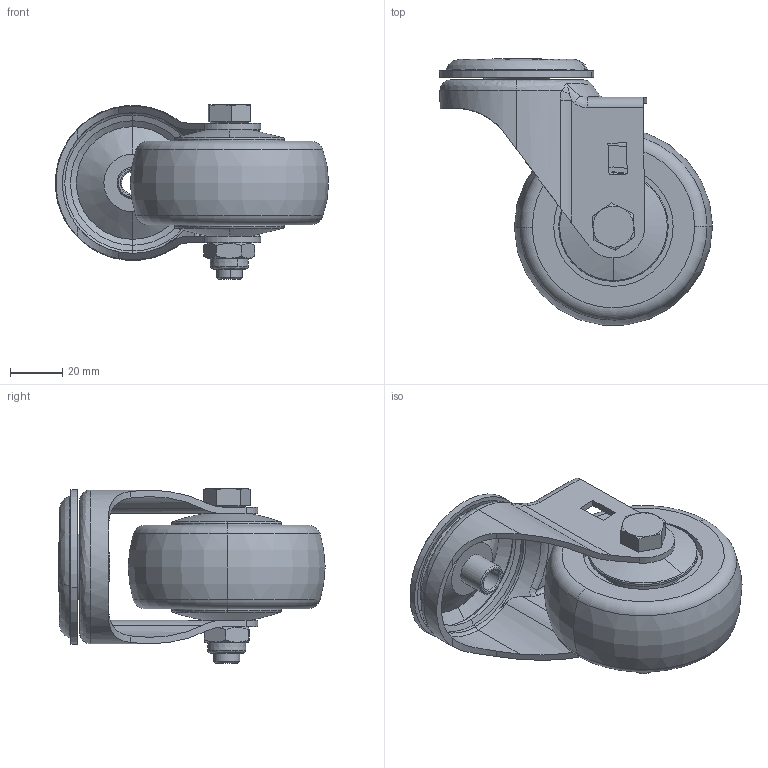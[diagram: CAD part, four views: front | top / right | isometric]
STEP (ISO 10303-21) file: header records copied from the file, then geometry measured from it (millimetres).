
FILE_DESCRIPTION (( 'STEP AP203' ), '1' );
FILE_NAME ('11390300269016.STEP', '2025-05-06T07:59:57', ( 'scd' ), ( '' ), 'SwSTEP 2.0', 'SolidWorks 2024', '' );
FILE_SCHEMA (( 'CONFIG_CONTROL_DESIGN' ));
Length unit declared in the file: millimetre
Products named in the file (8): 11390300265053(2); M10_2_2__A_O.STEP; 314______; 39_________P_4__A_O.STEP; hexagon head bolts gb_GB_FASTENER_BOLT_SB A M10X60-N_2__A_O.STEP; 3___o___1__A_O.STEP; 空心铆钉; 11390300269016
Assembly tree (7 placements, depth 3):
  11390300269016
    11390300265053(2)
      3___o___1__A_O.STEP
      39_________P_4__A_O.STEP
      hexagon head bolts gb_GB_FASTENER_BOLT_SB A M10X60-N_2__A_O.STEP
      M10_2_2__A_O.STEP
      314______
    空心铆钉
Bounding box: 104.73 x 102.13 x 67.08 mm (x, y, z)
Volume: 168627.3 mm3; surface area: 49853.4 mm2
Topology: 6 solids, 6 shells, 206 faces, 476 edges, 285 vertices
Faces by surface type: plane 54, cone 53, cylinder 51, bspline 34, torus 10, sphere 4
Entity records: 8626 total; most frequent: CARTESIAN_POINT 3262, DIRECTION 975, ORIENTED_EDGE 948, EDGE_CURVE 474, AXIS2_PLACEMENT_3D 410, VERTEX_POINT 285, CIRCLE 227, EDGE_LOOP 227
